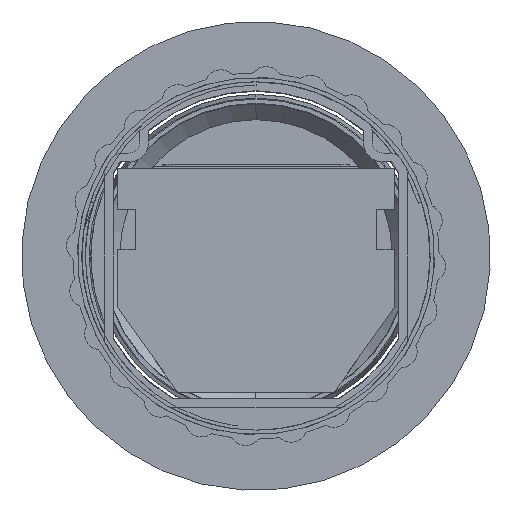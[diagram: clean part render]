
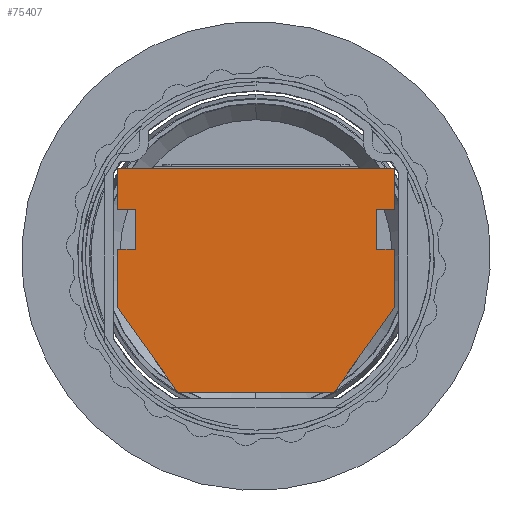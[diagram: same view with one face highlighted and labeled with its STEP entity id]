
A CAD part, front view. The second image highlights one B-rep face of the part: STEP entity #75407.
In plain terms, the highlighted planar face has unit normal (0, -1, 0).
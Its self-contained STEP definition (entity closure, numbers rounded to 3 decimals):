
#259 = VECTOR ( 'NONE', #103442, 1000. ) ;
#3010 = VECTOR ( 'NONE', #64053, 1000. ) ;
#3981 = EDGE_CURVE ( 'NONE', #91366, #58423, #22788, .T. ) ;
#4738 = CARTESIAN_POINT ( 'NONE',  ( 31., -5.5, -18. ) ) ;
#6934 = ORIENTED_EDGE ( 'NONE', *, *, #85793, .T. ) ;
#9543 = VECTOR ( 'NONE', #55452, 1000. ) ;
#9643 = DIRECTION ( 'NONE',  ( 1., 0., 0. ) ) ;
#10134 = EDGE_CURVE ( 'NONE', #72151, #20781, #41710, .T. ) ;
#10695 = LINE ( 'NONE', #53761, #9543 ) ;
#11158 = ORIENTED_EDGE ( 'NONE', *, *, #44075, .T. ) ;
#11328 = CARTESIAN_POINT ( 'NONE',  ( 27., -5.5, -9. ) ) ;
#11797 = DIRECTION ( 'NONE',  ( 1., 0., 0. ) ) ;
#11924 = LINE ( 'NONE', #65168, #3010 ) ;
#12834 = ORIENTED_EDGE ( 'NONE', *, *, #46780, .T. ) ;
#13637 = CARTESIAN_POINT ( 'NONE',  ( -31., -5.5, 0. ) ) ;
#13809 = CARTESIAN_POINT ( 'NONE',  ( 0., -5.5, 0. ) ) ;
#16389 = LINE ( 'NONE', #50943, #48348 ) ;
#16569 = VERTEX_POINT ( 'NONE', #100806 ) ;
#18722 = LINE ( 'NONE', #11328, #29857 ) ;
#19431 = VERTEX_POINT ( 'NONE', #72399 ) ;
#20267 = ORIENTED_EDGE ( 'NONE', *, *, #50094, .T. ) ;
#20781 = VERTEX_POINT ( 'NONE', #71133 ) ;
#22512 = LINE ( 'NONE', #29905, #80547 ) ;
#22788 = LINE ( 'NONE', #40334, #98077 ) ;
#23215 = AXIS2_PLACEMENT_3D ( 'NONE', #13809, #63720, #98263 ) ;
#23650 = LINE ( 'NONE', #50258, #108910 ) ;
#29159 = FACE_OUTER_BOUND ( 'NONE', #35241, .T. ) ;
#29715 = PLANE ( 'NONE',  #23215 ) ;
#29857 = VECTOR ( 'NONE', #9643, 1000. ) ;
#29905 = CARTESIAN_POINT ( 'NONE',  ( 31., -5.5, -9. ) ) ;
#31365 = ORIENTED_EDGE ( 'NONE', *, *, #3981, .T. ) ;
#33504 = CARTESIAN_POINT ( 'NONE',  ( 31., -5.5, -31. ) ) ;
#35241 = EDGE_LOOP ( 'NONE', ( #20267, #60575, #31365, #12834, #11158, #100976, #64274, #62161, #77488, #63613, #108291, #60789, #6934, #83733 ) ) ;
#38851 = DIRECTION ( 'NONE',  ( 0., 0., -1. ) ) ;
#40179 = EDGE_CURVE ( 'NONE', #98575, #91366, #16389, .T. ) ;
#40334 = CARTESIAN_POINT ( 'NONE',  ( -31., -5.5, -9. ) ) ;
#40561 = VERTEX_POINT ( 'NONE', #62242 ) ;
#41710 = LINE ( 'NONE', #94379, #259 ) ;
#42606 = VECTOR ( 'NONE', #83462, 1000. ) ;
#42998 = CARTESIAN_POINT ( 'NONE',  ( 27., -5.5, -9. ) ) ;
#43397 = EDGE_CURVE ( 'NONE', #19431, #66620, #73546, .T. ) ;
#44044 = DIRECTION ( 'NONE',  ( 0., 0., -1. ) ) ;
#44075 = EDGE_CURVE ( 'NONE', #94883, #48320, #23650, .T. ) ;
#46780 = EDGE_CURVE ( 'NONE', #58423, #94883, #90951, .T. ) ;
#46790 = CARTESIAN_POINT ( 'NONE',  ( -27., -5.5, -9. ) ) ;
#48320 = VERTEX_POINT ( 'NONE', #81216 ) ;
#48348 = VECTOR ( 'NONE', #93424, 1000. ) ;
#50094 = EDGE_CURVE ( 'NONE', #16569, #98575, #10695, .T. ) ;
#50258 = CARTESIAN_POINT ( 'NONE',  ( -27., -5.5, -18. ) ) ;
#50269 = VERTEX_POINT ( 'NONE', #106424 ) ;
#50941 = CARTESIAN_POINT ( 'NONE',  ( -31., -5.5, -9. ) ) ;
#50943 = CARTESIAN_POINT ( 'NONE',  ( -31., -5.5, 0. ) ) ;
#52728 = LINE ( 'NONE', #33504, #89803 ) ;
#53739 = CARTESIAN_POINT ( 'NONE',  ( -17.5, -5.5, -50. ) ) ;
#53761 = CARTESIAN_POINT ( 'NONE',  ( 31., -5.5, 0. ) ) ;
#55452 = DIRECTION ( 'NONE',  ( -1., 0., 0. ) ) ;
#55892 = CARTESIAN_POINT ( 'NONE',  ( -27., -5.5, -18. ) ) ;
#58423 = VERTEX_POINT ( 'NONE', #73526 ) ;
#58812 = LINE ( 'NONE', #87669, #100336 ) ;
#60575 = ORIENTED_EDGE ( 'NONE', *, *, #40179, .T. ) ;
#60789 = ORIENTED_EDGE ( 'NONE', *, *, #43397, .T. ) ;
#62161 = ORIENTED_EDGE ( 'NONE', *, *, #67525, .T. ) ;
#62242 = CARTESIAN_POINT ( 'NONE',  ( -31., -5.5, -31. ) ) ;
#63613 = ORIENTED_EDGE ( 'NONE', *, *, #108529, .T. ) ;
#63720 = DIRECTION ( 'NONE',  ( 0., -1., 0. ) ) ;
#64053 = DIRECTION ( 'NONE',  ( 0.579, 0., -0.815 ) ) ;
#64274 = ORIENTED_EDGE ( 'NONE', *, *, #65709, .T. ) ;
#64460 = DIRECTION ( 'NONE',  ( 0., 0., 1. ) ) ;
#64506 = DIRECTION ( 'NONE',  ( 0., 0., 1. ) ) ;
#65168 = CARTESIAN_POINT ( 'NONE',  ( -31., -5.5, -31. ) ) ;
#65709 = EDGE_CURVE ( 'NONE', #40561, #50269, #11924, .T. ) ;
#66399 = DIRECTION ( 'NONE',  ( 1., 0., 0. ) ) ;
#66620 = VERTEX_POINT ( 'NONE', #42998 ) ;
#67525 = EDGE_CURVE ( 'NONE', #50269, #72151, #97912, .T. ) ;
#71133 = CARTESIAN_POINT ( 'NONE',  ( 31., -5.5, -31. ) ) ;
#72151 = VERTEX_POINT ( 'NONE', #94092 ) ;
#72399 = CARTESIAN_POINT ( 'NONE',  ( 27., -5.5, -18. ) ) ;
#73526 = CARTESIAN_POINT ( 'NONE',  ( -27., -5.5, -9. ) ) ;
#73546 = LINE ( 'NONE', #82051, #87270 ) ;
#75407 = ADVANCED_FACE ( 'NONE', ( #29159 ), #29715, .T. ) ;
#77488 = ORIENTED_EDGE ( 'NONE', *, *, #10134, .T. ) ;
#80238 = VERTEX_POINT ( 'NONE', #91158 ) ;
#80547 = VECTOR ( 'NONE', #64460, 1000. ) ;
#81216 = CARTESIAN_POINT ( 'NONE',  ( -31., -5.5, -18. ) ) ;
#82051 = CARTESIAN_POINT ( 'NONE',  ( 27., -5.5, -18. ) ) ;
#83462 = DIRECTION ( 'NONE',  ( -1., 0., 0. ) ) ;
#83733 = ORIENTED_EDGE ( 'NONE', *, *, #87018, .T. ) ;
#84092 = EDGE_CURVE ( 'NONE', #48320, #40561, #58812, .T. ) ;
#85234 = VECTOR ( 'NONE', #38851, 1000. ) ;
#85793 = EDGE_CURVE ( 'NONE', #66620, #80238, #18722, .T. ) ;
#87018 = EDGE_CURVE ( 'NONE', #80238, #16569, #22512, .T. ) ;
#87270 = VECTOR ( 'NONE', #64506, 1000. ) ;
#87669 = CARTESIAN_POINT ( 'NONE',  ( -31., -5.5, -18. ) ) ;
#87886 = EDGE_CURVE ( 'NONE', #108926, #19431, #91405, .T. ) ;
#89803 = VECTOR ( 'NONE', #102604, 1000. ) ;
#90951 = LINE ( 'NONE', #46790, #85234 ) ;
#91158 = CARTESIAN_POINT ( 'NONE',  ( 31., -5.5, -9. ) ) ;
#91366 = VERTEX_POINT ( 'NONE', #50941 ) ;
#91405 = LINE ( 'NONE', #4738, #42606 ) ;
#92747 = DIRECTION ( 'NONE',  ( -1., 0., 0. ) ) ;
#93424 = DIRECTION ( 'NONE',  ( 0., 0., -1. ) ) ;
#94092 = CARTESIAN_POINT ( 'NONE',  ( 17.5, -5.5, -50. ) ) ;
#94379 = CARTESIAN_POINT ( 'NONE',  ( 17.5, -5.5, -50. ) ) ;
#94883 = VERTEX_POINT ( 'NONE', #55892 ) ;
#96332 = CARTESIAN_POINT ( 'NONE',  ( 31., -5.5, -18. ) ) ;
#97142 = VECTOR ( 'NONE', #11797, 1000. ) ;
#97912 = LINE ( 'NONE', #53739, #97142 ) ;
#98077 = VECTOR ( 'NONE', #66399, 1000. ) ;
#98263 = DIRECTION ( 'NONE',  ( 0., 0., -1. ) ) ;
#98575 = VERTEX_POINT ( 'NONE', #13637 ) ;
#100336 = VECTOR ( 'NONE', #44044, 1000. ) ;
#100806 = CARTESIAN_POINT ( 'NONE',  ( 31., -5.5, 0. ) ) ;
#100976 = ORIENTED_EDGE ( 'NONE', *, *, #84092, .T. ) ;
#102604 = DIRECTION ( 'NONE',  ( 0., 0., 1. ) ) ;
#103442 = DIRECTION ( 'NONE',  ( 0.579, 0., 0.815 ) ) ;
#106424 = CARTESIAN_POINT ( 'NONE',  ( -17.5, -5.5, -50. ) ) ;
#108291 = ORIENTED_EDGE ( 'NONE', *, *, #87886, .T. ) ;
#108529 = EDGE_CURVE ( 'NONE', #20781, #108926, #52728, .T. ) ;
#108910 = VECTOR ( 'NONE', #92747, 1000. ) ;
#108926 = VERTEX_POINT ( 'NONE', #96332 ) ;
